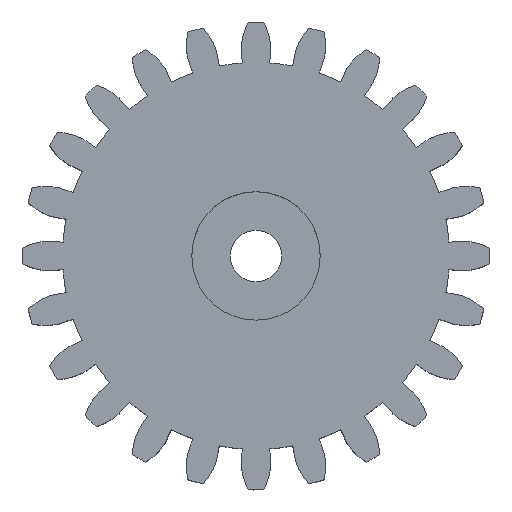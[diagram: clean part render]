
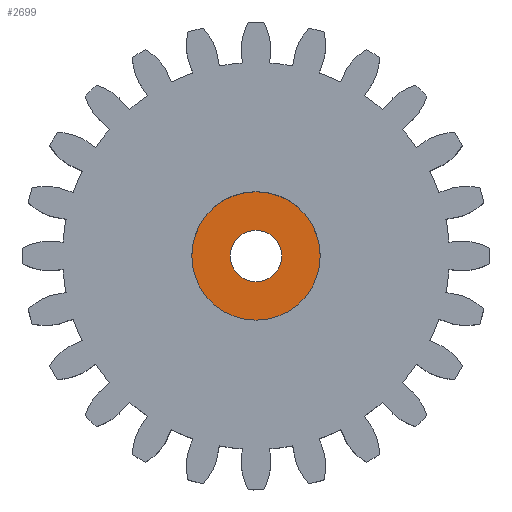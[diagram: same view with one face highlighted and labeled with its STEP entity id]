
A CAD part, top view. The second image highlights one B-rep face of the part: STEP entity #2699.
In plain terms, the highlighted planar face has unit normal (0, 0, 1).
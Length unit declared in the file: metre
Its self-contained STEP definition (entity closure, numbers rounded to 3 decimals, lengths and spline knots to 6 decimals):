
#444=PLANE('',#2865);
#499=ORIENTED_EDGE('',*,*,#1369,.F.);
#500=ORIENTED_EDGE('',*,*,#1368,.T.);
#1368=EDGE_CURVE('',#1804,#1804,#2096,.T.);
#1369=EDGE_CURVE('',#1805,#1805,#2097,.T.);
#1804=VERTEX_POINT('',#4093);
#1805=VERTEX_POINT('',#4096);
#2096=CIRCLE('',#2861,0.001);
#2097=CIRCLE('',#2863,0.0025);
#2295=EDGE_LOOP('',(#499));
#2296=EDGE_LOOP('',(#500));
#2449=FACE_BOUND('',#2295,.T.);
#2450=FACE_BOUND('',#2296,.T.);
#2699=ADVANCED_FACE('',(#2449,#2450),#444,.T.);
#2861=AXIS2_PLACEMENT_3D('',#4092,#3210,#3211);
#2863=AXIS2_PLACEMENT_3D('',#4095,#3214,#3215);
#2865=AXIS2_PLACEMENT_3D('',#4099,#3218,#3219);
#3210=DIRECTION('',(0.,0.,-1.));
#3211=DIRECTION('',(-1.,0.,0.));
#3214=DIRECTION('',(0.,0.,-1.));
#3215=DIRECTION('',(-1.,0.,0.));
#3218=DIRECTION('',(0.,0.,1.));
#3219=DIRECTION('',(-1.,0.,0.));
#4092=CARTESIAN_POINT('',(0.,0.,0.001));
#4093=CARTESIAN_POINT('',(-0.001,0.,0.001));
#4095=CARTESIAN_POINT('',(0.,0.,0.001));
#4096=CARTESIAN_POINT('',(-0.0025,0.,0.001));
#4099=CARTESIAN_POINT('',(0.,0.,0.001));
